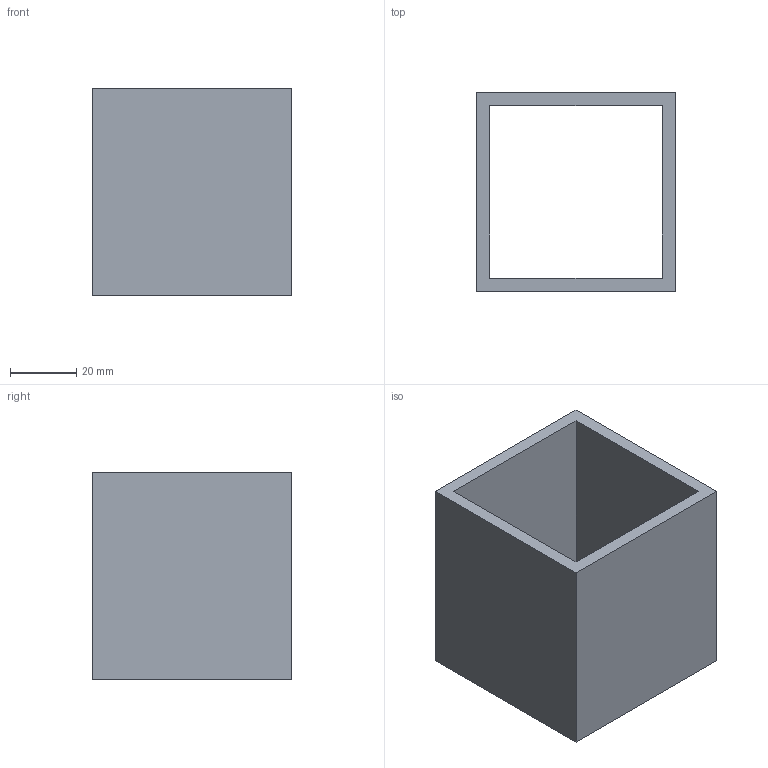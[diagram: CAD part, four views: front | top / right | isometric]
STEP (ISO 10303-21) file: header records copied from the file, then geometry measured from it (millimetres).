
FILE_DESCRIPTION(('Open CASCADE Model'),'2;1');
FILE_NAME('Open CASCADE Shape Model','2026-10-19T10:09:19',('Author'),( 'Open CASCADE'),'Open CASCADE STEP processor 8.0','Open CASCADE 8.0' ,'Unknown');
FILE_SCHEMA(('AUTOMOTIVE_DESIGN { 1 0 10303 214 1 1 1 1 }'));
Length unit declared in the file: millimetre
Products named in the file (1): SHS60x60x4_L62410_P05 16
Bounding box: 60 x 60 x 62.41 mm (x, y, z)
Volume: 55919.3 mm3; surface area: 29751.6 mm2
Topology: 1 solids, 1 shells, 10 faces, 24 edges, 16 vertices
Faces by surface type: plane 10
Entity records: 614 total; most frequent: CARTESIAN_POINT 99, DIRECTION 94, LINE 72, VECTOR 72, ORIENTED_EDGE 48, PCURVE 48, DEFINITIONAL_REPRESENTATION 48, EDGE_CURVE 24
